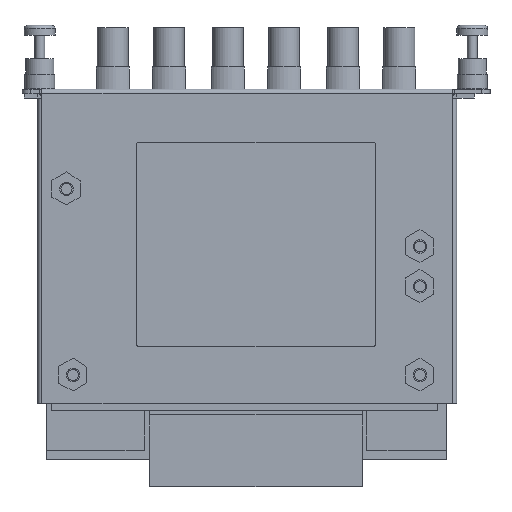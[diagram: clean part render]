
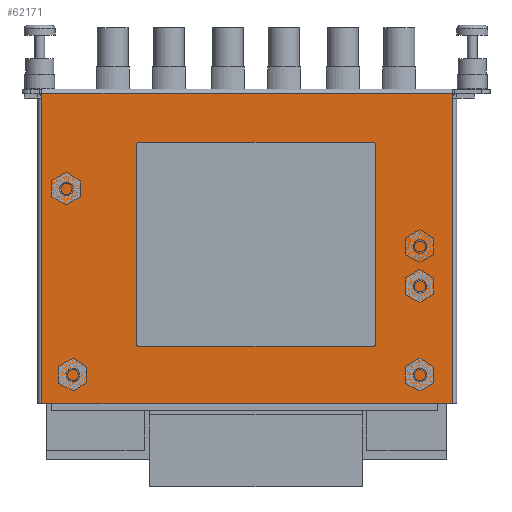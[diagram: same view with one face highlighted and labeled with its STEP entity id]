
A CAD part, front view. The second image highlights one B-rep face of the part: STEP entity #62171.
In plain terms, the highlighted planar face has unit normal (0, -1, 0).
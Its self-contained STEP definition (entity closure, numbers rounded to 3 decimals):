
#60514=DIRECTION('',(0.,0.,1.));
#60515=VECTOR('',#60514,1.);
#60516=CARTESIAN_POINT('',(-48.3,-20.9,-2.));
#60517=LINE('',#60516,#60515);
#60744=DIRECTION('',(1.,0.,0.));
#60745=VECTOR('',#60744,92.6);
#60746=CARTESIAN_POINT('',(-48.3,-20.9,-1.));
#60747=LINE('',#60746,#60745);
#60752=DIRECTION('',(1.,0.,0.));
#60753=VECTOR('',#60752,92.6);
#60754=CARTESIAN_POINT('',(-48.3,-20.9,-71.));
#60755=LINE('',#60754,#60753);
#60756=DIRECTION('',(0.,0.,1.));
#60757=VECTOR('',#60756,1.);
#60758=CARTESIAN_POINT('',(44.3,-20.9,-2.));
#60759=LINE('',#60758,#60757);
#60760=CARTESIAN_POINT('',(-26.5,-20.9,-57.5));
#60761=DIRECTION('',(0.,1.,0.));
#60762=DIRECTION('',(0.,0.,-1.));
#60763=AXIS2_PLACEMENT_3D('',#60760,#60761,#60762);
#60765=DIRECTION('',(-1.,0.,0.));
#60766=VECTOR('',#60765,53.);
#60767=CARTESIAN_POINT('',(26.5,-20.9,-58.));
#60768=LINE('',#60767,#60766);
#60769=CARTESIAN_POINT('',(26.5,-20.9,-57.5));
#60770=DIRECTION('',(0.,1.,0.));
#60771=DIRECTION('',(1.,0.,0.));
#60772=AXIS2_PLACEMENT_3D('',#60769,#60770,#60771);
#60774=DIRECTION('',(0.,0.,-1.));
#60775=VECTOR('',#60774,45.);
#60776=CARTESIAN_POINT('',(27.,-20.9,-12.5));
#60777=LINE('',#60776,#60775);
#60778=CARTESIAN_POINT('',(26.5,-20.9,-12.5));
#60779=DIRECTION('',(0.,1.,0.));
#60780=DIRECTION('',(0.,0.,1.));
#60781=AXIS2_PLACEMENT_3D('',#60778,#60779,#60780);
#60783=DIRECTION('',(1.,0.,0.));
#60784=VECTOR('',#60783,53.);
#60785=CARTESIAN_POINT('',(-26.5,-20.9,-12.));
#60786=LINE('',#60785,#60784);
#60787=CARTESIAN_POINT('',(-26.5,-20.9,-12.5));
#60788=DIRECTION('',(0.,1.,0.));
#60789=DIRECTION('',(-1.,0.,0.));
#60790=AXIS2_PLACEMENT_3D('',#60787,#60788,#60789);
#60792=DIRECTION('',(0.,0.,1.));
#60793=VECTOR('',#60792,45.);
#60794=CARTESIAN_POINT('',(-27.,-20.9,-57.5));
#60795=LINE('',#60794,#60793);
#60934=DIRECTION('',(0.,0.,-1.));
#60935=VECTOR('',#60934,69.);
#60936=CARTESIAN_POINT('',(44.3,-20.9,-2.));
#60937=LINE('',#60936,#60935);
#60955=DIRECTION('',(0.,0.,1.));
#60956=VECTOR('',#60955,69.);
#60957=CARTESIAN_POINT('',(-48.3,-20.9,-71.));
#60958=LINE('',#60957,#60956);
#61379=CARTESIAN_POINT('',(-48.3,-20.9,-1.));
#61380=VERTEX_POINT('',#61379);
#61381=CARTESIAN_POINT('',(-48.3,-20.9,-2.));
#61382=VERTEX_POINT('',#61381);
#61387=CARTESIAN_POINT('',(44.3,-20.9,-1.));
#61388=VERTEX_POINT('',#61387);
#61389=CARTESIAN_POINT('',(44.3,-20.9,-2.));
#61390=VERTEX_POINT('',#61389);
#61417=CARTESIAN_POINT('',(44.3,-20.9,-71.));
#61418=VERTEX_POINT('',#61417);
#61419=CARTESIAN_POINT('',(-48.3,-20.9,-71.));
#61420=VERTEX_POINT('',#61419);
#61463=CARTESIAN_POINT('',(-26.5,-20.9,-58.));
#61464=CARTESIAN_POINT('',(-27.,-20.9,-57.5));
#61465=VERTEX_POINT('',#61463);
#61466=VERTEX_POINT('',#61464);
#61483=CARTESIAN_POINT('',(-27.,-20.9,-12.5));
#61484=VERTEX_POINT('',#61483);
#61485=CARTESIAN_POINT('',(26.5,-20.9,-58.));
#61486=VERTEX_POINT('',#61485);
#61489=CARTESIAN_POINT('',(-26.5,-20.9,-12.));
#61490=VERTEX_POINT('',#61489);
#61491=CARTESIAN_POINT('',(27.,-20.9,-57.5));
#61492=VERTEX_POINT('',#61491);
#61497=CARTESIAN_POINT('',(26.5,-20.9,-12.));
#61498=VERTEX_POINT('',#61497);
#61501=CARTESIAN_POINT('',(27.,-20.9,-12.5));
#61502=VERTEX_POINT('',#61501);
#62137=CARTESIAN_POINT('',(44.8,-20.9,-1.));
#62138=DIRECTION('',(0.,1.,0.));
#62139=DIRECTION('',(1.,0.,0.));
#62140=AXIS2_PLACEMENT_3D('',#62137,#62138,#62139);
#62141=PLANE('',#62140);
#62143=ORIENTED_EDGE('',*,*,#62142,.F.);
#62145=ORIENTED_EDGE('',*,*,#62144,.T.);
#62146=ORIENTED_EDGE('',*,*,#61766,.T.);
#62147=ORIENTED_EDGE('',*,*,#62130,.T.);
#62148=ORIENTED_EDGE('',*,*,#62029,.F.);
#62150=ORIENTED_EDGE('',*,*,#62149,.T.);
#62151=EDGE_LOOP('',(#62143,#62145,#62146,#62147,#62148,#62150));
#62152=FACE_OUTER_BOUND('',#62151,.F.);
#62154=ORIENTED_EDGE('',*,*,#62153,.F.);
#62156=ORIENTED_EDGE('',*,*,#62155,.F.);
#62158=ORIENTED_EDGE('',*,*,#62157,.F.);
#62160=ORIENTED_EDGE('',*,*,#62159,.F.);
#62162=ORIENTED_EDGE('',*,*,#62161,.F.);
#62164=ORIENTED_EDGE('',*,*,#62163,.F.);
#62166=ORIENTED_EDGE('',*,*,#62165,.F.);
#62168=ORIENTED_EDGE('',*,*,#62167,.F.);
#62169=EDGE_LOOP('',(#62154,#62156,#62158,#62160,#62162,#62164,#62166,#62168));
#62170=FACE_BOUND('',#62169,.F.);
#62171=ADVANCED_FACE('',(#62152,#62170),#62141,.F.);
#60764=CIRCLE('',#60763,0.5);
#60773=CIRCLE('',#60772,0.5);
#60782=CIRCLE('',#60781,0.5);
#60791=CIRCLE('',#60790,0.5);
#61766=EDGE_CURVE('',#61382,#61380,#60517,.T.);
#62029=EDGE_CURVE('',#61390,#61388,#60759,.T.);
#62130=EDGE_CURVE('',#61380,#61388,#60747,.T.);
#62142=EDGE_CURVE('',#61420,#61418,#60755,.T.);
#62144=EDGE_CURVE('',#61420,#61382,#60958,.T.);
#62149=EDGE_CURVE('',#61390,#61418,#60937,.T.);
#62153=EDGE_CURVE('',#61465,#61466,#60764,.T.);
#62155=EDGE_CURVE('',#61486,#61465,#60768,.T.);
#62157=EDGE_CURVE('',#61492,#61486,#60773,.T.);
#62159=EDGE_CURVE('',#61502,#61492,#60777,.T.);
#62161=EDGE_CURVE('',#61498,#61502,#60782,.T.);
#62163=EDGE_CURVE('',#61490,#61498,#60786,.T.);
#62165=EDGE_CURVE('',#61484,#61490,#60791,.T.);
#62167=EDGE_CURVE('',#61466,#61484,#60795,.T.);
